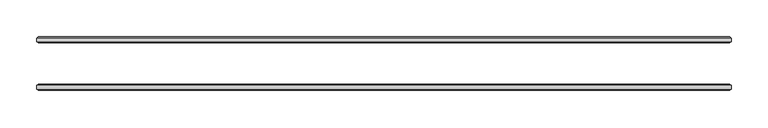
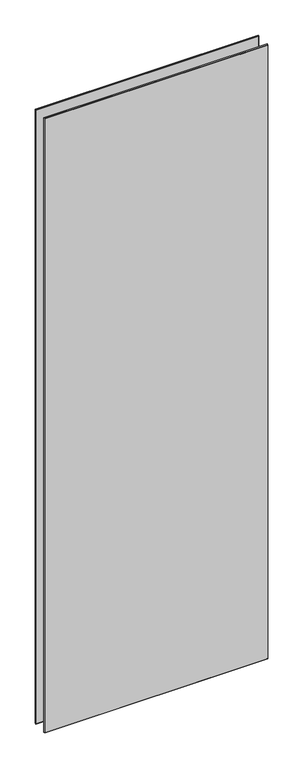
"""IFC4 building model written with IfcOpenShell, lengths in millimetres: plate geometry, 3-AMG-2-Панель двойной витраж 8, 10 : Смещение 32 Толщина 8mm."""

from ifc_helpers import new_model, si_unit, origin, place, context, project, spatial, faceted_brep, source, transform, mapped, element, save


def plate_9d8ebe26(model_context):
    return source(origin(), model_context, "Body", "Brep", [
        faceted_brep([(471.4461907, -34.4961653, 2722.8), (471.4461907, -29.5038347, 2722.8), (-466.4461907, -29.5038347, 2722.8), (-466.4461907, -34.4961653, 2722.8), (471.4461907, -29.5038347, -7.0), (471.4461907, -34.4961653, -7.0), (-466.4461907, -34.4961653, -7.0), (-466.4461907, -29.5038347, -7.0), (-464.942356, -28.0, 2721.2961653), (469.942356, -28.0, 2721.2961653), (469.942356, -28.0, -5.5039422), (-464.942356, -28.0, -5.5039422), (469.942356, -36.0, 2721.2961653), (-464.942356, -36.0, 2721.2961653), (-464.942356, -36.0, -5.4961653), (469.942356, -36.0, -5.4961653)], [[[0, 1, 2, 3]], [[4, 5, 6, 7]], [[8, 9, 10, 11]], [[3, 2, 7, 6]], [[12, 13, 14, 15]], [[1, 0, 5, 4]], [[1, 4, 10, 9]], [[5, 0, 12, 15]], [[0, 3, 13, 12]], [[2, 1, 9, 8]], [[7, 2, 8, 11]], [[3, 6, 14, 13]], [[6, 5, 15, 14]], [[4, 7, 11, 10]]]),
        faceted_brep([(471.4461907, 29.5038347, 2722.8), (471.4461907, 34.4961653, 2722.8), (-466.4461907, 34.4961653, 2722.8), (-466.4461907, 29.5038347, 2722.8), (471.4461907, 34.4961653, -7.0), (471.4461907, 29.5038347, -7.0), (-466.4461907, 29.5038347, -7.0), (-466.4461907, 34.4961653, -7.0), (-464.942356, 36.0, 2721.2961653), (469.942356, 36.0, 2721.2961653), (469.942356, 36.0, -5.5039422), (-464.942356, 36.0, -5.5039422), (469.942356, 28.0, 2721.2961653), (-464.942356, 28.0, 2721.2961653), (-464.942356, 28.0, -5.4961653), (469.942356, 28.0, -5.4961653)], [[[0, 1, 2, 3]], [[4, 5, 6, 7]], [[8, 9, 10, 11]], [[3, 2, 7, 6]], [[12, 13, 14, 15]], [[1, 0, 5, 4]], [[1, 4, 10, 9]], [[5, 0, 12, 15]], [[7, 2, 8, 11]], [[3, 6, 14, 13]], [[0, 3, 13, 12]], [[2, 1, 9, 8]], [[6, 5, 15, 14]], [[4, 7, 11, 10]]]),
    ])


if __name__ == "__main__":
    model = new_model("IFC4")
    model_context = context("Model", 3, world=origin())
    ifc_project = project(units=[si_unit("LENGTHUNIT", "METRE", prefix="MILLI")], contexts=[model_context])
    site = spatial("IfcSite", under=ifc_project)
    building = spatial("IfcBuilding", under=site)
    placement = place(None, origin())
    plate_shape = plate_9d8ebe26(model_context)
    element("IfcPlate", 1, ObjectType="3-AMG-2-Панель двойной витраж 8, 10 : Смещение 32 Толщина 8mm", at=placement, inside=building, context=model_context, shape_type="MappedRepresentation", body=[
        mapped(plate_shape, transform((0.0, 0.0, 0.0), x_axis=(1.0, 0.0, 0.0), y_axis=(0.0, 1.0, 0.0), z_axis=(0.0, 0.0, 1.0))),
    ])
    save(model, "model.ifc")
